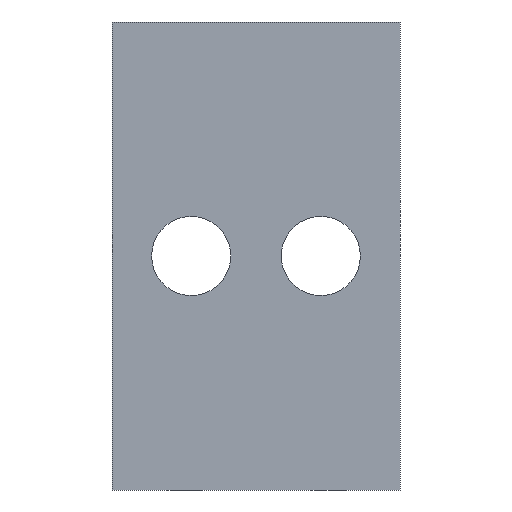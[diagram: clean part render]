
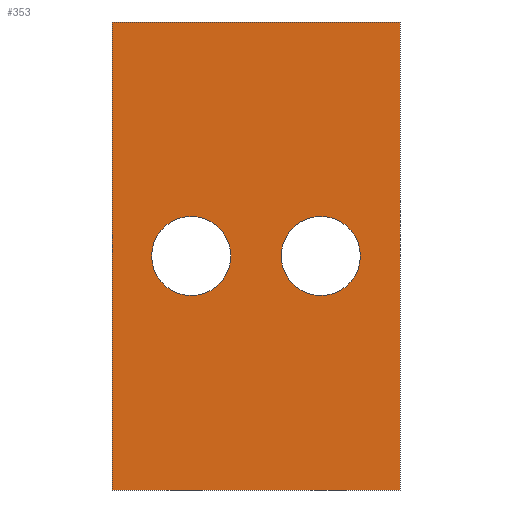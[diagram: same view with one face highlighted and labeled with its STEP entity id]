
A CAD part, front view. The second image highlights one B-rep face of the part: STEP entity #353.
In plain terms, the highlighted planar face has unit normal (0, -1, 0).
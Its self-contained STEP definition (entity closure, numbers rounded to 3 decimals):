
#19=LINE('',#546,#43);
#29=LINE('',#567,#53);
#35=LINE('',#577,#59);
#37=LINE('',#580,#61);
#43=VECTOR('',#455,10.);
#53=VECTOR('',#471,10.);
#59=VECTOR('',#481,10.);
#61=VECTOR('',#485,10.);
#73=PLANE('',#391);
#93=FACE_BOUND('',#154,.T.);
#94=FACE_BOUND('',#155,.T.);
#115=FACE_OUTER_BOUND('',#153,.T.);
#153=EDGE_LOOP('',(#315,#316,#317,#318));
#154=EDGE_LOOP('',(#319));
#155=EDGE_LOOP('',(#320));
#167=CIRCLE('',#370,11.);
#171=CIRCLE('',#377,11.);
#183=VERTEX_POINT('',#513);
#187=VERTEX_POINT('',#524);
#195=VERTEX_POINT('',#544);
#196=VERTEX_POINT('',#545);
#203=VERTEX_POINT('',#565);
#204=VERTEX_POINT('',#566);
#215=EDGE_CURVE('',#183,#183,#167,.T.);
#219=EDGE_CURVE('',#187,#187,#171,.T.);
#227=EDGE_CURVE('',#195,#196,#19,.T.);
#237=EDGE_CURVE('',#203,#204,#29,.T.);
#243=EDGE_CURVE('',#203,#196,#35,.T.);
#245=EDGE_CURVE('',#195,#204,#37,.T.);
#315=ORIENTED_EDGE('',*,*,#243,.T.);
#316=ORIENTED_EDGE('',*,*,#227,.F.);
#317=ORIENTED_EDGE('',*,*,#245,.T.);
#318=ORIENTED_EDGE('',*,*,#237,.F.);
#319=ORIENTED_EDGE('',*,*,#215,.T.);
#320=ORIENTED_EDGE('',*,*,#219,.T.);
#353=ADVANCED_FACE('',(#115,#93,#94),#73,.F.);
#370=AXIS2_PLACEMENT_3D('',#514,#421,#422);
#377=AXIS2_PLACEMENT_3D('',#525,#435,#436);
#391=AXIS2_PLACEMENT_3D('',#582,#487,#488);
#421=DIRECTION('center_axis',(0.,1.,0.));
#422=DIRECTION('ref_axis',(-1.,0.,0.));
#435=DIRECTION('center_axis',(0.,1.,0.));
#436=DIRECTION('ref_axis',(-1.,0.,0.));
#455=DIRECTION('',(-1.,0.,0.));
#471=DIRECTION('',(1.,0.,0.));
#481=DIRECTION('',(0.,0.,-1.));
#485=DIRECTION('',(0.,0.,1.));
#487=DIRECTION('center_axis',(0.,1.,0.));
#488=DIRECTION('ref_axis',(0.,0.,1.));
#513=CARTESIAN_POINT('',(-7.,0.,0.));
#514=CARTESIAN_POINT('Origin',(-18.,0.,0.));
#524=CARTESIAN_POINT('',(29.,0.,0.));
#525=CARTESIAN_POINT('Origin',(18.,0.,0.));
#544=CARTESIAN_POINT('',(40.,0.,-65.));
#545=CARTESIAN_POINT('',(-40.,0.,-65.));
#546=CARTESIAN_POINT('',(40.,0.,-65.));
#565=CARTESIAN_POINT('',(-40.,0.,65.));
#566=CARTESIAN_POINT('',(40.,0.,65.));
#567=CARTESIAN_POINT('',(-40.,0.,65.));
#577=CARTESIAN_POINT('',(-40.,0.,55.));
#580=CARTESIAN_POINT('',(40.,0.,55.));
#582=CARTESIAN_POINT('Origin',(0.,0.,0.));
